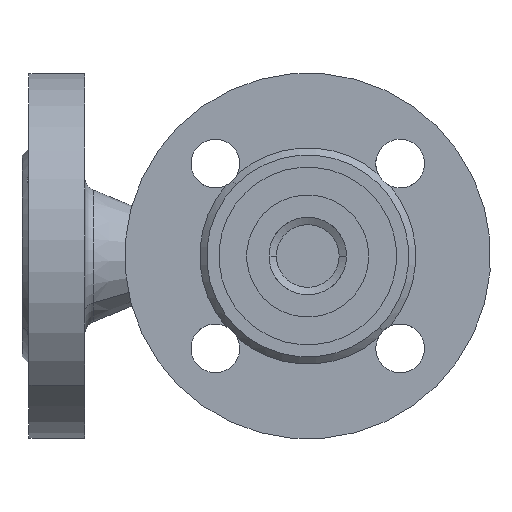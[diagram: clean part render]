
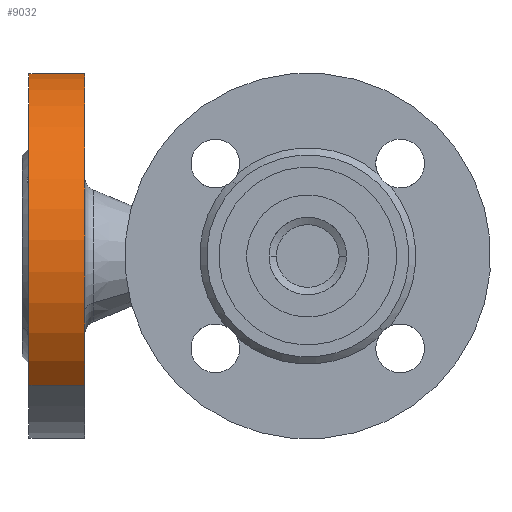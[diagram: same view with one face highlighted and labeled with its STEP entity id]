
A CAD part, front view. The second image highlights one B-rep face of the part: STEP entity #9032.
In plain terms, the highlighted cylindrical face has radius 52.5 mm (diameter 105 mm), a partial arc.
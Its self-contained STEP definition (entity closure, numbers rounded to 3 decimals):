
#472 = CARTESIAN_POINT ( 'NONE',  ( 52.5, 2., 0. ) ) ;
#814 = CARTESIAN_POINT ( 'NONE',  ( -52.5, 2., 0. ) ) ;
#1051 = CIRCLE ( 'NONE', #1052, 52.5 ) ;
#1052 = AXIS2_PLACEMENT_3D ( 'NONE', #1053, #1054, #1055 ) ;
#1053 = CARTESIAN_POINT ( 'NONE',  ( 0., 2., 0. ) ) ;
#1054 = DIRECTION ( 'NONE',  ( 0., 1., 0. ) ) ;
#1055 = DIRECTION ( 'NONE',  ( -1., 0., 0. ) ) ;
#2098 = FACE_OUTER_BOUND ( 'NONE', #8795, .T. ) ;
#2099 = CYLINDRICAL_SURFACE ( 'NONE', #2100, 52.5 ) ;
#2100 = AXIS2_PLACEMENT_3D ( 'NONE', #2101, #2102, #2103 ) ;
#2101 = CARTESIAN_POINT ( 'NONE',  ( 0., 75., 0. ) ) ;
#2102 = DIRECTION ( 'NONE',  ( 0., 1., 0. ) ) ;
#2103 = DIRECTION ( 'NONE',  ( -1., 0., 0. ) ) ;
#2586 = EDGE_CURVE ( 'NONE', #7678, #6866, #10633, .T. ) ;
#2678 = ORIENTED_EDGE ( 'NONE', *, *, #2586, .F. ) ;
#3886 = CIRCLE ( 'NONE', #3887, 52.5 ) ;
#3887 = AXIS2_PLACEMENT_3D ( 'NONE', #3888, #3889, #3890 ) ;
#3888 = CARTESIAN_POINT ( 'NONE',  ( 0., 18., 0. ) ) ;
#3889 = DIRECTION ( 'NONE',  ( 0., 1., 0. ) ) ;
#3890 = DIRECTION ( 'NONE',  ( -1., 0., 0. ) ) ;
#6866 = VERTEX_POINT ( 'NONE', #8712 ) ;
#7042 = ORIENTED_EDGE ( 'NONE', *, *, #10209, .F. ) ;
#7122 = VERTEX_POINT ( 'NONE', #11644 ) ;
#7155 = EDGE_CURVE ( 'NONE', #7453, #7122, #11864, .T. ) ;
#7197 = ORIENTED_EDGE ( 'NONE', *, *, #7155, .T. ) ;
#7453 = VERTEX_POINT ( 'NONE', #472 ) ;
#7678 = VERTEX_POINT ( 'NONE', #814 ) ;
#7903 = EDGE_CURVE ( 'NONE', #7678, #7453, #1051, .T. ) ;
#8284 = ORIENTED_EDGE ( 'NONE', *, *, #7903, .T. ) ;
#8712 = CARTESIAN_POINT ( 'NONE',  ( -52.5, 18., 0. ) ) ;
#8795 = EDGE_LOOP ( 'NONE', ( #8284, #7197, #7042, #2678 ) ) ;
#9032 = ADVANCED_FACE ( 'NONE', ( #2098 ), #2099, .T. ) ;
#10209 = EDGE_CURVE ( 'NONE', #6866, #7122, #3886, .T. ) ;
#10633 = LINE ( 'NONE', #10634, #10635 ) ;
#10634 = CARTESIAN_POINT ( 'NONE',  ( -52.5, 75., 0. ) ) ;
#10635 = VECTOR ( 'NONE', #10636, 1000. ) ;
#10636 = DIRECTION ( 'NONE',  ( 0., 1., 0. ) ) ;
#11644 = CARTESIAN_POINT ( 'NONE',  ( 52.5, 18., 0. ) ) ;
#11864 = LINE ( 'NONE', #11865, #11866 ) ;
#11865 = CARTESIAN_POINT ( 'NONE',  ( 52.5, 75., 0. ) ) ;
#11866 = VECTOR ( 'NONE', #11867, 1000. ) ;
#11867 = DIRECTION ( 'NONE',  ( 0., 1., 0. ) ) ;
